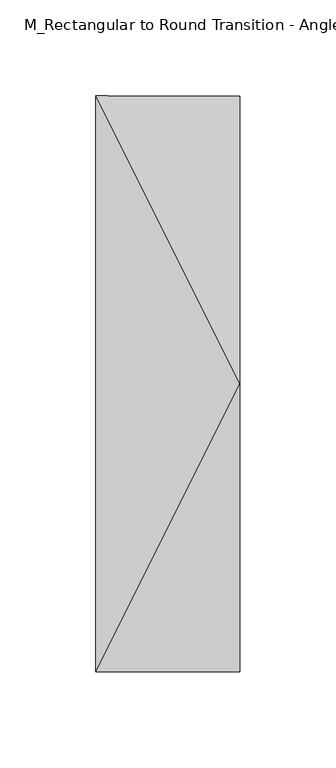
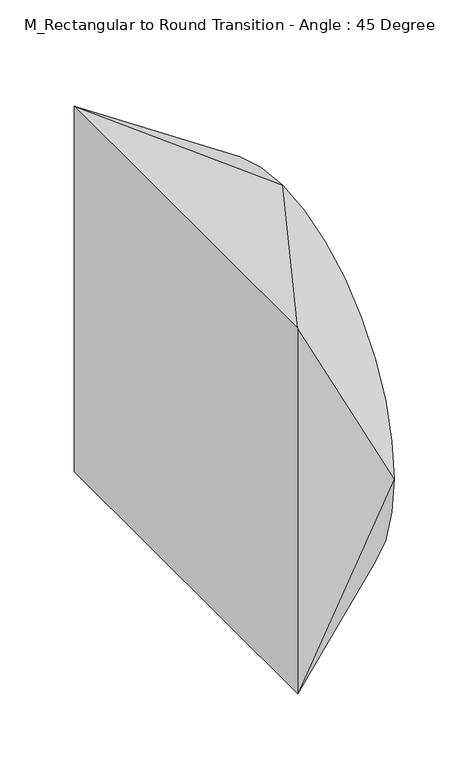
"""IFC4 building model written with IfcOpenShell, lengths in millimetres: duct fitting geometry, M_Rectangular to Round Transition - Angle : 45 Degree."""

from ifc_helpers import new_model, si_unit, frame, origin, place, context, project, spatial, circle_curve, source, transform, mapped, element, save
from ifc_brep_helpers import plane_surface, spline_surface, advanced_brep


def m_rectangular_to_round_transition_angle_45_degree_641efff0(model_context):
    return source(origin(), model_context, "Body", "AdvancedBrep", [
        advanced_brep(
        [(75.0, 0.0, 150.0), (75.0, -150.0, 0.0), (75.0, 0.0, -150.0), (75.0, 150.0, 0.0), (0.0, -150.0, 150.0), (0.0, 150.0, 150.0), (0.0, 150.0, -150.0), (0.0, -150.0, -150.0)],
        [
            (0, 1, circle_curve(frame((75.0, 0.0, 0.0), z_axis=(1.0, 0.0, 0.0), x_axis=(0.0, 1.0, 0.0)), 150.0)),
            (1, 2, circle_curve(frame((75.0, 0.0, 0.0), z_axis=(1.0, 0.0, 0.0), x_axis=(0.0, 1.0, 0.0)), 150.0)),
            (2, 3, circle_curve(frame((75.0, 0.0, 0.0), z_axis=(1.0, 0.0, 0.0), x_axis=(0.0, 1.0, 0.0)), 150.0)),
            (3, 0, circle_curve(frame((75.0, 0.0, 0.0), z_axis=(1.0, 0.0, 0.0), x_axis=(0.0, 1.0, 0.0)), 150.0)),
            (4, 5),
            (5, 6),
            (6, 7),
            (7, 4),
            (0, 4),
            (4, 1),
            (7, 1),
            (7, 2),
            (6, 2),
            (6, 3),
            (5, 3),
            (5, 0),
        ],
        [
            plane_surface(frame((75.0, 0.0, 0.0), z_axis=(1.0, 0.0, 0.0), x_axis=(0.0, 0.0, -1.0))),
            plane_surface(frame((0.0, 0.0, 0.0), z_axis=(-1.0, 0.0, 0.0), x_axis=(0.0, 0.0, -1.0))),
            spline_surface(2, 1, [[(0.0, -150.0, 150.0), (75.0, 0.0, 150.0)], [(0.0, -150.0, 150.0), (75.0, -150.0, 150.0)], [(0.0, -150.0, 150.0), (75.0, -150.0, 0.0)]], [3, 3], [2, 2], [0.0, 1.0], [0.0, 1.0], weights=[[1.0, 1.0], [0.7071067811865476, 0.7071067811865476], [1.0, 1.0]]),
            plane_surface(frame((0.0, -150.0, 0.0), z_axis=(0.0, -1.0, 0.0), x_axis=(0.0, 0.0, -1.0))),
            spline_surface(2, 1, [[(0.0, -150.0, -150.0), (75.0, -150.0, 0.0)], [(0.0, -150.0, -150.0), (75.0, -150.0, -150.0)], [(0.0, -150.0, -150.0), (75.0, 0.0, -150.0)]], [3, 3], [2, 2], [0.0, 1.0], [0.0, 1.0], weights=[[1.0, 1.0], [0.7071067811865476, 0.7071067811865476], [1.0, 1.0]]),
            plane_surface(frame((0.0, 0.0, -150.0), z_axis=(0.0, 0.0, -1.0), x_axis=(0.0, 1.0, 0.0))),
            spline_surface(2, 1, [[(0.0, 150.0, -150.0), (75.0, 0.0, -150.0)], [(0.0, 150.0, -150.0), (75.0, 150.0, -150.0)], [(0.0, 150.0, -150.0), (75.0, 150.0, 0.0)]], [3, 3], [2, 2], [0.0, 1.0], [0.0, 1.0], weights=[[1.0, 1.0], [0.7071067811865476, 0.7071067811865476], [1.0, 1.0]]),
            plane_surface(frame((0.0, 150.0, 0.0), z_axis=(0.0, 1.0, 0.0), x_axis=(0.0, 0.0, 1.0))),
            spline_surface(2, 1, [[(0.0, 150.0, 150.0), (75.0, 150.0, 0.0)], [(0.0, 150.0, 150.0), (75.0, 150.0, 150.0)], [(0.0, 150.0, 150.0), (75.0, 0.0, 150.0)]], [3, 3], [2, 2], [0.0, 1.0], [0.0, 1.0], weights=[[1.0, 1.0], [0.7071067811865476, 0.7071067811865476], [1.0, 1.0]]),
            plane_surface(frame((0.0, 0.0, 150.0), z_axis=(0.0, 0.0, 1.0), x_axis=(0.0, -1.0, 0.0))),
        ],
        [
            (0, [[1, 2, 3, 4]]),
            (1, [[5, 6, 7, 8]]),
            (2, [[-1, 9, 10]]),
            (3, [[-8, 11, -10]]),
            (4, [[-2, -11, 12]]),
            (5, [[-7, 13, -12]]),
            (6, [[-3, -13, 14]]),
            (7, [[-6, 15, -14]]),
            (8, [[-4, -15, 16]]),
            (9, [[-5, -9, -16]]),
        ],
    ),
    ])


if __name__ == "__main__":
    model = new_model("IFC4")
    model_context = context("Model", 3, world=origin())
    ifc_project = project(units=[si_unit("LENGTHUNIT", "METRE", prefix="MILLI")], contexts=[model_context])
    site = spatial("IfcSite", under=ifc_project)
    building = spatial("IfcBuilding", under=site)
    placement = place(None, origin())
    m_rectangular_to_round_transition_angle_45_degree_shape = m_rectangular_to_round_transition_angle_45_degree_641efff0(model_context)
    element("IfcDuctFitting", 1, ObjectType="M_Rectangular to Round Transition - Angle : 45 Degree", at=placement, inside=building, context=model_context, shape_type="MappedRepresentation", body=[
        mapped(m_rectangular_to_round_transition_angle_45_degree_shape, transform((0.0, 0.0, 0.0), x_axis=(1.0, 0.0, 0.0), y_axis=(0.0, 1.0, 0.0), z_axis=(0.0, 0.0, 1.0))),
    ])
    save(model, "model.ifc")
